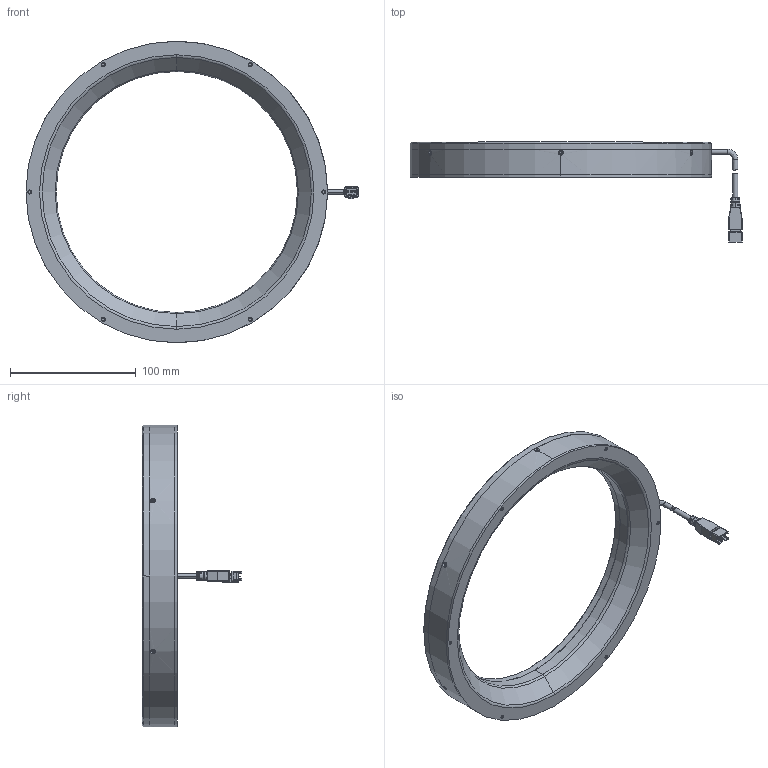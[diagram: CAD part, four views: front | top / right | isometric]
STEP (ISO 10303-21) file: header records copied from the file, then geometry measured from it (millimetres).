
FILE_DESCRIPTION (( 'STEP AP203' ), '1' );
FILE_NAME ('CRT-RL24045-¼òÒ×3DÍ¼.STEP', '2021-12-23T01:36:34', ( 'Admin' ), ( '' ), 'SwSTEP 2.0', 'SolidWorks 2018', '' );
FILE_SCHEMA (( 'CONFIG_CONTROL_DESIGN' ));
Length unit declared in the file: millimetre
Products named in the file (1): CRT-RL24045-潠眢3D芞
Bounding box: 264.25 x 79.45 x 240 mm (x, y, z)
Surface area: 81776.1 mm2 (no closed solid volume)
Topology: 0 solids, 5 shells, 244 faces, 776 edges, 511 vertices
Faces by surface type: plane 102, cylinder 97, cone 32, bspline 9, torus 4
Entity records: 9877 total; most frequent: CARTESIAN_POINT 3090, DIRECTION 1404, ORIENTED_EDGE 1282, EDGE_CURVE 776, VERTEX_POINT 511, AXIS2_PLACEMENT_3D 482, LINE 440, VECTOR 440
